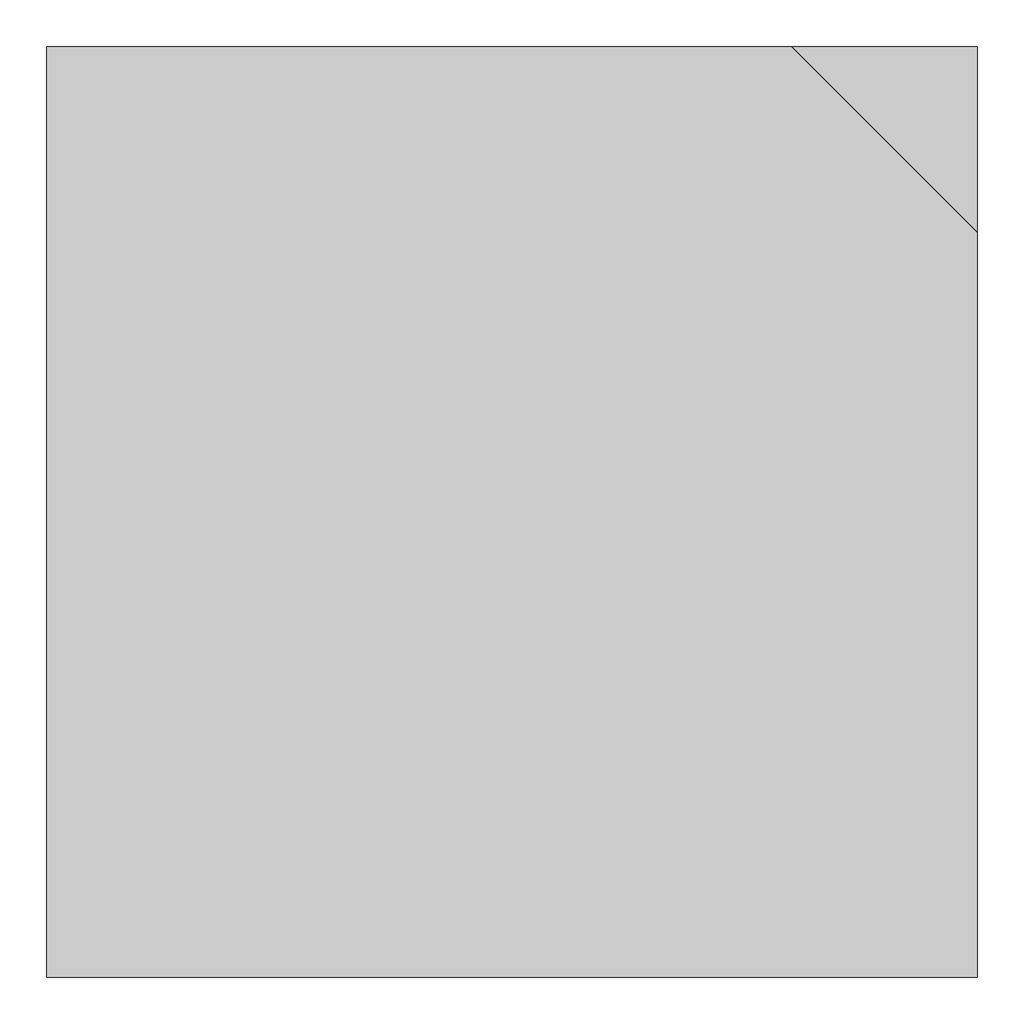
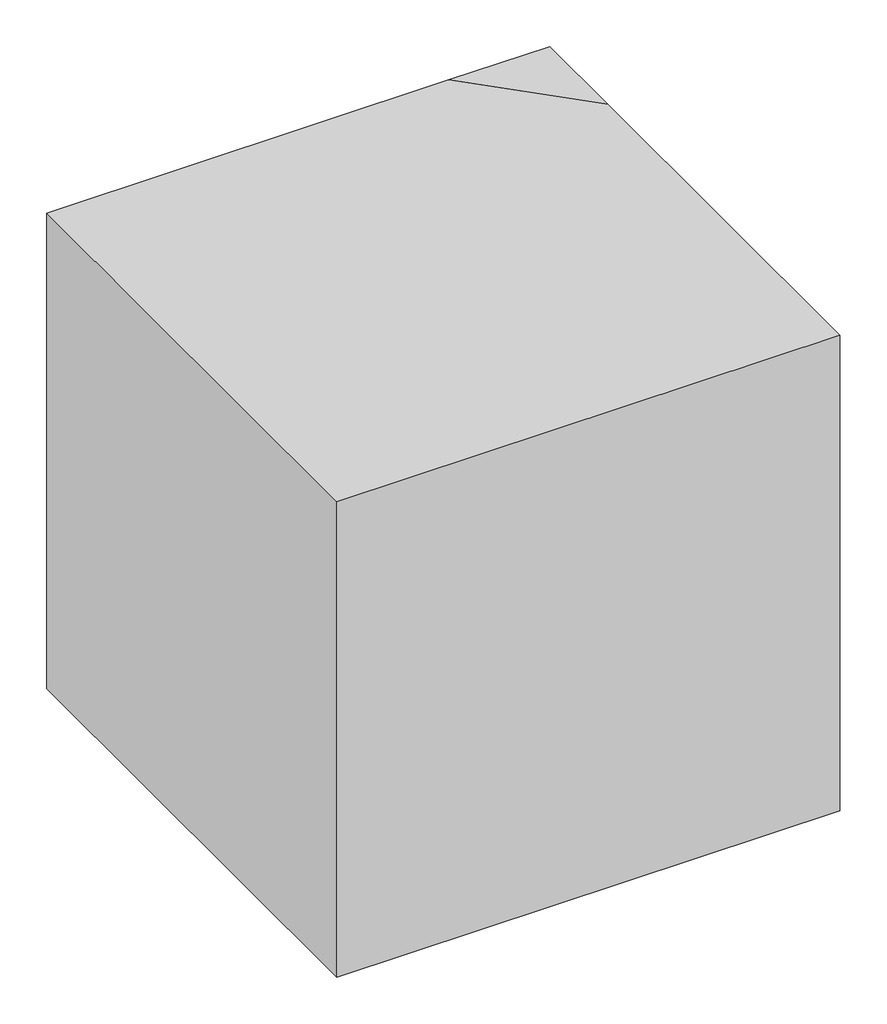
# One storey: 1 proxy.
"""IFC4 building model written with IfcOpenShell, lengths in millimetres."""

import ifcopenshell
import ifcopenshell.guid

model = None  # the IFC model being written
_history = None  # IfcOwnerHistory: only IFC2X3 demands one
_inside = {}  # id of a spatial element -> (the spatial element, [elements in it])
_under = {}  # id of a project, library or spatial element -> (it, [spatial elements below it])
_declared = {}  # id of a project -> (the project, [libraries it declares])
_typed = {}  # id of a type object -> (the type object, [elements of that type])
_made_of = {}  # id of a material, layer set ... -> (it, [elements and type objects made of it])


def new_model(schema):
    """Start an empty IFC model of exactly this schema.

    Asked for "IFC4X3", IfcOpenShell would pick the latest addendum, in which some entities
    have other attributes; the version numbers below select the first issue.
    IFC2X3 requires an IfcOwnerHistory on every rooted entity: one is made here for all.
    """
    global model, _history
    if schema == "IFC4X3":
        model = ifcopenshell.file(schema_version=(4, 3, 0, 0))
    else:
        model = ifcopenshell.file(schema=schema)
    _inside.clear()
    _under.clear()
    _declared.clear()
    _typed.clear()
    _made_of.clear()
    _history = None
    if model.schema == "IFC2X3":
        org = make("IfcOrganization", Name="unknown")
        user = make(
            "IfcPersonAndOrganization",
            ThePerson=make("IfcPerson", FamilyName="unknown"),
            TheOrganization=org,
        )
        app = make(
            "IfcApplication",
            ApplicationDeveloper=org,
            Version="unknown",
            ApplicationFullName="unknown",
            ApplicationIdentifier="unknown",
        )
        _history = make(
            "IfcOwnerHistory",
            OwningUser=user,
            OwningApplication=app,
            ChangeAction="ADDED",
            CreationDate=0,
        )
    return model


def make(cls, **values):
    """One entity of the class cls with the attributes given. An attribute that is None is left unset."""
    return model.create_entity(
        cls, **{name: value for name, value in values.items() if value is not None}
    )


def rooted(cls, **values):
    """An entity with a GlobalId (a new one), such as an element, a storey or a relation."""
    return make(cls, GlobalId=ifcopenshell.guid.new(), OwnerHistory=_history, **values)


def si_unit(unit_type, name, prefix=None):
    """IfcSIUnit, for example si_unit("LENGTHUNIT", "METRE", prefix="MILLI")."""
    return make("IfcSIUnit", UnitType=unit_type, Prefix=prefix, Name=name)


def assignment(units):
    """IfcUnitAssignment: the units of a project."""
    return None if units is None else make("IfcUnitAssignment", Units=units)


def point(xyz):
    """IfcCartesianPoint."""
    return None if xyz is None else make("IfcCartesianPoint", Coordinates=xyz)


def direction(xyz):
    """IfcDirection."""
    return None if xyz is None else make("IfcDirection", DirectionRatios=xyz)


def frame(location, z_axis=None, x_axis=None):
    """IfcAxis2Placement3D, a coordinate frame: its origin and axes. An axis left out is left unset."""
    return make(
        "IfcAxis2Placement3D",
        Location=point(location),
        Axis=direction(z_axis),
        RefDirection=direction(x_axis),
    )


def origin():
    """The frame at (0, 0, 0) with its axes left unset."""
    return frame((0.0, 0.0, 0.0))


def place(relative_to, where):
    """IfcLocalPlacement: puts the frame where relative to a parent placement (None: the world)."""
    return make(
        "IfcLocalPlacement", PlacementRelTo=relative_to, RelativePlacement=where
    )


def context(
    kind, dimensions, precision=None, world=None, true_north=None, identifier=None
):
    """IfcGeometricRepresentationContext, for example the 3D "Model" context."""
    return make(
        "IfcGeometricRepresentationContext",
        ContextIdentifier=identifier,
        ContextType=kind,
        CoordinateSpaceDimension=dimensions,
        Precision=precision,
        WorldCoordinateSystem=world,
        TrueNorth=true_north,
    )


def project(units=None, contexts=None):
    """IfcProject with its units and contexts."""
    return rooted(
        "IfcProject",
        Name="project",
        RepresentationContexts=contexts,
        UnitsInContext=assignment(units),
    )


def spatial(cls, under=None, at=None, **own):
    """A site, building, storey or space (cls), placed at a placement, below another one or the project."""
    s = rooted(cls, ObjectPlacement=at, **own)
    if under is not None:
        _under.setdefault(under.id(), (under, []))[1].append(s)
    return s


def faces_of(points, faces, orient=None, outer=None):
    """IfcFace entities. A face is a list of loops; a loop is a list of indices into points, from 0.

    orient and outer hold one flag for each loop. By default every Orientation is true, the
    first loop of a face is its IfcFaceOuterBound and the others are IfcFaceBound.
    """
    made = []
    for i, loops in enumerate(faces):
        bounds = []
        for j, loop in enumerate(loops):
            is_outer = j == 0 if outer is None else outer[i][j]
            bounds.append(
                make(
                    "IfcFaceOuterBound" if is_outer else "IfcFaceBound",
                    Bound=make("IfcPolyLoop", Polygon=[points[k] for k in loop]),
                    Orientation=True if orient is None else orient[i][j],
                )
            )
        made.append(make("IfcFace", Bounds=bounds))
    return made


def faceted_brep(points, faces, orient=None, outer=None, voids=None):
    """IfcFacetedBrep: a solid bounded by flat faces; with voids (closed shells), ...WithVoids."""
    shared = [point(p) for p in points]
    hull = make("IfcClosedShell", CfsFaces=faces_of(shared, faces, orient, outer))
    if voids is None:
        return make("IfcFacetedBrep", Outer=hull)
    return make(
        "IfcFacetedBrepWithVoids",
        Outer=hull,
        Voids=[
            make(cls, CfsFaces=faces_of(shared, fs, o, b)) for cls, fs, o, b in voids
        ],
    )


def shape(context_of_items, identifier, shape_type, items):
    """IfcShapeRepresentation: the items that make up one representation, for example the "Body"."""
    return make(
        "IfcShapeRepresentation",
        ContextOfItems=context_of_items,
        RepresentationIdentifier=identifier,
        RepresentationType=shape_type,
        Items=items,
    )


def source(mapping_origin, context_of_items, identifier, shape_type, items):
    """IfcRepresentationMap: a shape defined once, which mapped items show again and again."""
    return make(
        "IfcRepresentationMap",
        MappingOrigin=mapping_origin,
        MappedRepresentation=shape(context_of_items, identifier, shape_type, items),
    )


def transform(
    local_origin,
    x_axis=None,
    y_axis=None,
    z_axis=None,
    scale=None,
    scale2=None,
    scale3=None,
    uniform=True,
):
    """IfcCartesianTransformationOperator3D, or its non-uniform kind. x_axis, y_axis, z_axis: its Axis1, 2, 3."""
    if uniform:
        return make(
            "IfcCartesianTransformationOperator3D",
            Axis1=direction(x_axis),
            Axis2=direction(y_axis),
            LocalOrigin=point(local_origin),
            Scale=scale,
            Axis3=direction(z_axis),
        )
    return make(
        "IfcCartesianTransformationOperator3DnonUniform",
        Axis1=direction(x_axis),
        Axis2=direction(y_axis),
        LocalOrigin=point(local_origin),
        Scale=scale,
        Axis3=direction(z_axis),
        Scale2=scale2,
        Scale3=scale3,
    )


def mapped(mapping_source, mapping_target):
    """IfcMappedItem: shows the shape of a source again, moved by a transform."""
    return make(
        "IfcMappedItem", MappingSource=mapping_source, MappingTarget=mapping_target
    )


def made_of(thing, what):
    """Note that an element or type object is made of a material, layer set ...; save() writes the relation."""
    if what is not None:
        _made_of.setdefault(what.id(), (what, []))[1].append(thing)
    return thing


def element(
    cls,
    number,
    at=None,
    inside=None,
    cuts=None,
    type_object=None,
    material=None,
    context=None,
    identifier="Body",
    shape_type=None,
    held_by="IfcProductDefinitionShape",
    body=None,
    shapes=None,
    **own,
):
    """One element of the class cls, such as IfcWall. Its Tag is "e" and its number.

    at: its placement. inside: the storey or other place that contains it. cuts: it is an
    opening in that element (IfcRelVoidsElement). A single representation is given by context,
    identifier, shape_type and body (its items); several are given by shapes. held_by: the class
    of the entity that holds the representations. save() writes the other relations.
    """
    e = rooted(cls, Tag="e%d" % number, ObjectPlacement=at, **own)
    if body is not None:
        shapes = [shape(context, identifier, shape_type, body)]
    if shapes is not None:
        e.Representation = make(held_by, Representations=shapes)
    if inside is not None:
        _inside.setdefault(inside.id(), (inside, []))[1].append(e)
    if cuts is not None:
        rooted(
            "IfcRelVoidsElement", RelatingBuildingElement=cuts, RelatedOpeningElement=e
        )
    if type_object is not None:
        _typed.setdefault(type_object.id(), (type_object, []))[1].append(e)
    return made_of(e, material)


def aggregate(whole, parts):
    """IfcRelAggregates: a whole, such as a stair, and the parts it consists of."""
    return rooted("IfcRelAggregates", RelatingObject=whole, RelatedObjects=parts)


def save(model, path):
    """Write the relations noted so far, then the file.

    IfcRelAggregates (storeys below a building ...), IfcRelContainedInSpatialStructure (elements
    in a storey), IfcRelDefinesByType, IfcRelAssociatesMaterial and IfcRelDeclares: one each for
    every whole, place, type object, material and project.
    """
    for whole, parts in _under.values():
        aggregate(whole, parts)
    for where, things in _inside.values():
        rooted(
            "IfcRelContainedInSpatialStructure",
            RelatedElements=things,
            RelatingStructure=where,
        )
    for kind, things in _typed.values():
        rooted("IfcRelDefinesByType", RelatedObjects=things, RelatingType=kind)
    for what, things in _made_of.values():
        rooted("IfcRelAssociatesMaterial", RelatedObjects=things, RelatingMaterial=what)
    for by, libraries in _declared.values():
        rooted("IfcRelDeclares", RelatingContext=by, RelatedDefinitions=libraries)
    model.write(path)


def generic_models_168f31e5(model_context):
    return source(origin(), model_context, "Body", "Brep", [
        faceted_brep([(-1000.0, 0.0, -1000.0), (-1000.0, 0.0, 0.0), (-200.0, 0.0, 0.0), (0.0, 0.0, -200.0), (0.0, 0.0, -1000.0), (-1000.0, -1000.0, -1000.0), (0.0, -1000.0, -1000.0), (0.0, -1000.0, 0.0), (-1000.0, -1000.0, 0.0), (0.0, -200.0, 0.0)], [[[0, 1, 2, 3, 4]], [[5, 6, 7, 8]], [[0, 4, 6, 5]], [[7, 6, 4, 3, 9]], [[8, 7, 9, 2, 1]], [[1, 0, 5, 8]], [[3, 2, 9]]]),
        faceted_brep([(-200.0, 0.0, 0.0), (0.0, 0.0, 0.0), (0.0, 0.0, -200.0), (0.0, -200.0, 0.0)], [[[0, 1, 2]], [[2, 1, 3]], [[3, 1, 0]], [[0, 2, 3]]]),
    ])


model = new_model("IFC4")

# Units and contexts
model_context = context("Model", 3, world=origin())
ifc_project = project(units=[si_unit("LENGTHUNIT", "METRE", prefix="MILLI")], contexts=[model_context])

# Site, building, storey
site = spatial("IfcSite", under=ifc_project)
building = spatial("IfcBuilding", under=site)
storey = spatial("IfcBuildingStorey", under=building, Name="00_bouwlaagoppervlak", Elevation=0.0)

# Proxy
placement = place(None, origin())
generic_models_shape = generic_models_168f31e5(model_context)
element("IfcBuildingElementProxy", 1, Name="RBS_--_GM_coördinatiepunt : peildatum_UIT", ObjectType="RBS_--_GM_coördinatiepunt : peildatum_UIT", at=placement, inside=storey, context=model_context, shape_type="MappedRepresentation", body=[
    mapped(generic_models_shape, transform((0.0, 0.0, 0.0), x_axis=(1.0, 0.0, 0.0), y_axis=(0.0, 1.0, 0.0), z_axis=(0.0, 0.0, 1.0))),
])

save(model, "model.ifc")
